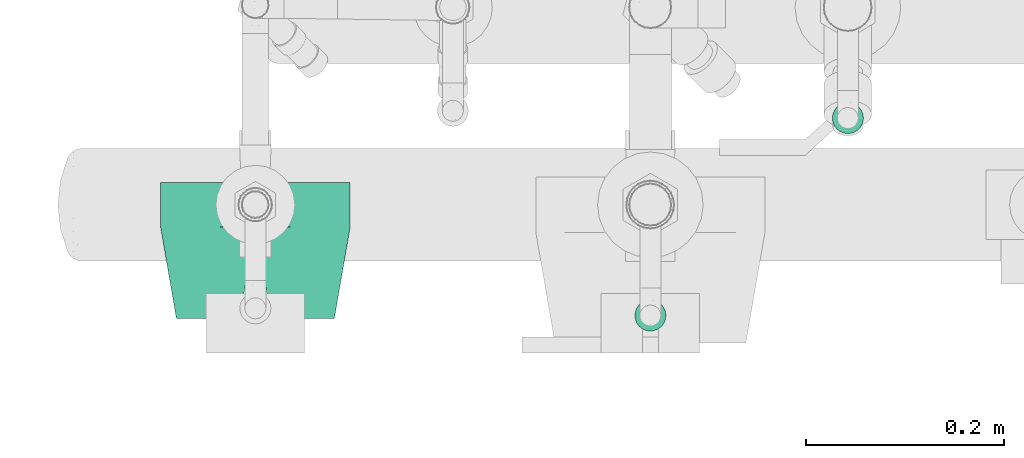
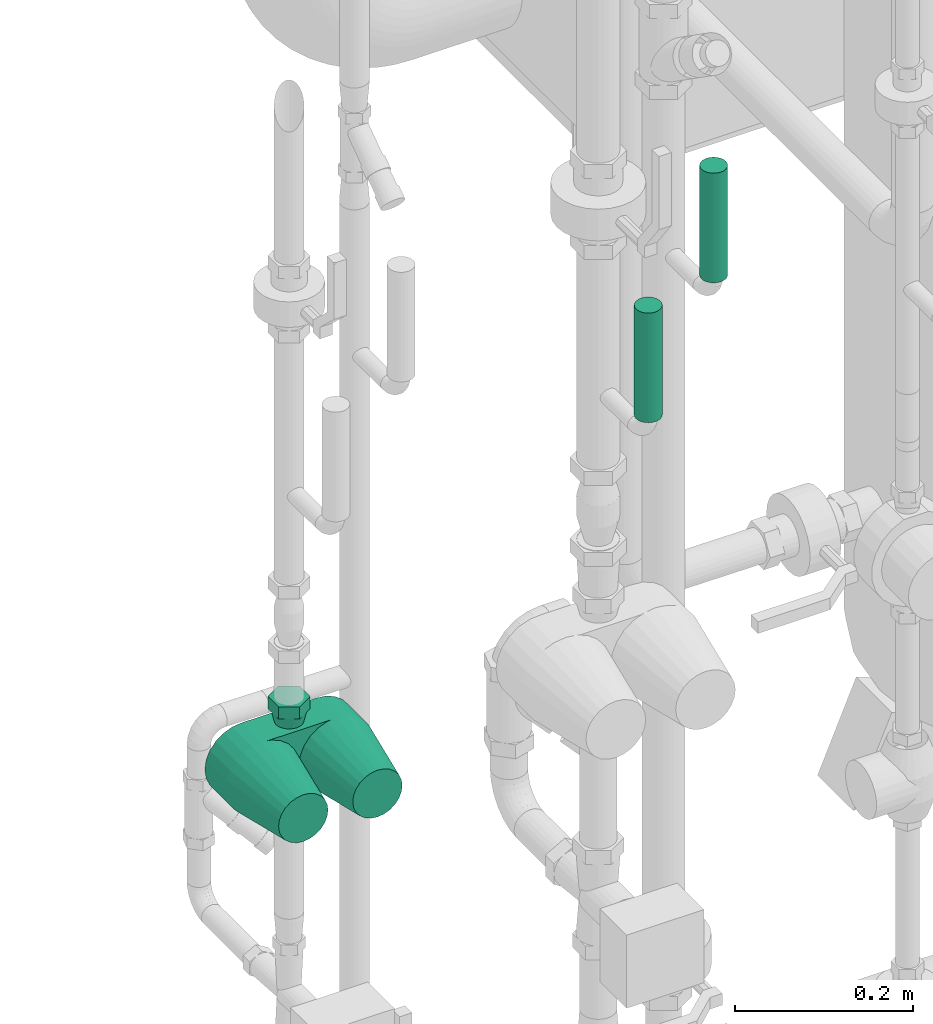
# One storey, part 81 of 374: 2 distribution control elements, 1 flow moving device.
"""IFC2X3 building model written with IfcOpenShell, lengths in metres."""

from ifc_helpers import new_model, si_unit, direction, origin, place, context, subcontext, project, spatial, open_shell, surface_model, source, transform, mapped, element, save


model = new_model("IFC2X3")

# Units and contexts
model_context = context("Model", 3, precision=1e-05, world=origin(), true_north=direction((-0.4480736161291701, 0.8939966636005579)))
body_context = subcontext(model_context, "Body", "Model", "MODEL_VIEW")
ifc_project = project(units=[si_unit("LENGTHUNIT", "METRE"), si_unit("AREAUNIT", "SQUARE_METRE"), si_unit("VOLUMEUNIT", "CUBIC_METRE"), si_unit("PLANEANGLEUNIT", "RADIAN"), si_unit("THERMODYNAMICTEMPERATUREUNIT", "KELVIN"), si_unit("MASSUNIT", "GRAM", prefix="KILO"), si_unit("TIMEUNIT", "SECOND")], contexts=[model_context])

# Site, building, storey
site_placement = place(None, origin())
site = spatial("IfcSite", under=ifc_project, at=site_placement, Name="Site 1", CompositionType="ELEMENT")
building_placement = place(site_placement, origin())
building = spatial("IfcBuilding", under=site, at=building_placement, Name="Undefined", CompositionType="ELEMENT")
storey_placement = place(building_placement, origin())
storey = spatial("IfcBuildingStorey", under=building, at=storey_placement, Name="Rez de chauss\x8ee", CompositionType="ELEMENT", Elevation=0.0)

# Distribution control elements
shared_shape_1 = source(origin(), body_context, "Body", "SurfaceModel", [
    surface_model("IfcFaceBasedSurfaceModel", [(0.0, 0.004111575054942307, -1.33226763e-15), (0.0, 0.0, 0.0), (0.1499999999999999, 7.105427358e-15, -4.4408921e-16), (0.1499999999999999, 0.004111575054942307, -1.33226763e-15), (0.0, -0.003971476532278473, -0.0010641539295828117), (0.1499999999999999, -0.003971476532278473, -0.0010641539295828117), (0.0, -0.007532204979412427, -0.003119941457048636), (0.1499999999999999, -0.007532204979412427, -0.003119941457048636), (0.0, -0.01043952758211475, -0.006027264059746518), (0.1499999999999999, -0.01043952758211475, -0.006027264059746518), (0.0, -0.01249531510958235, -0.009587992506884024), (0.1499999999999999, -0.01249531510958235, -0.009587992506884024), (0.0, -0.013559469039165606, -0.013559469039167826), (0.1499999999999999, -0.013559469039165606, -0.013559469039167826), (0.0, -0.013559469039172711, -0.017671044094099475), (0.1499999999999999, -0.013559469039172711, -0.017671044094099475), (0.0, -0.01249531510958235, -0.021642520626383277), (0.1499999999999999, -0.01249531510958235, -0.021642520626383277), (0.0, -0.010439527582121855, -0.025203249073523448), (0.1499999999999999, -0.010439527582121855, -0.025203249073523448), (0.0, -0.007532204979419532, -0.028110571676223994), (0.1499999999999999, -0.007532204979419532, -0.028110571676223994), (0.0, -0.003971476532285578, -0.030166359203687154), (0.1499999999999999, -0.003971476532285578, -0.030166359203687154), (0.0, 7.105427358e-15, -0.031230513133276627), (0.1499999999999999, 7.105427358e-15, -0.031230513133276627), (0.0, 0.004111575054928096, -0.031230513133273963), (0.1499999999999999, 0.004111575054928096, -0.031230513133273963), (0.0, 0.00808305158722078, -0.03016635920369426), (0.1499999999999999, 0.00808305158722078, -0.03016635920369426), (0.0, 0.011643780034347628, -0.028110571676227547), (0.1499999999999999, 0.011643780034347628, -0.028110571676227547), (0.0, 0.014551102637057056, -0.02520324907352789), (0.1499999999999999, 0.014551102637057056, -0.02520324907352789), (0.0, 0.01660689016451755, -0.02164252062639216), (0.1499999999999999, 0.01660689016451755, -0.02164252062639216), (0.0, 0.017671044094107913, -0.01767104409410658), (0.1499999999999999, 0.017671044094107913, -0.01767104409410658), (0.0, 0.017671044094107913, -0.013559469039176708), (0.1499999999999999, 0.017671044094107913, -0.013559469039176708), (0.0, 0.016606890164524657, -0.00958799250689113), (0.1499999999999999, 0.016606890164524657, -0.00958799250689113), (0.0, 0.014551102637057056, -0.006027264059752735), (0.1499999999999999, 0.014551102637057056, -0.006027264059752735), (0.0, 0.01164378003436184, -0.003119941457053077), (0.1499999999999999, 0.01164378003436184, -0.003119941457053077), (0.0, 0.00808305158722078, -0.0010641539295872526), (0.1499999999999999, 0.00808305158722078, -0.0010641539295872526), (0.0, 0.002055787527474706, -0.015615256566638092), (0.1499999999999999, 0.002055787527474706, -0.015615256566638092)], [open_shell([[[0, 1, 2, 3]], [[1, 4, 5, 2]], [[4, 6, 7, 5]], [[6, 8, 9, 7]], [[8, 10, 11, 9]], [[10, 12, 13, 11]], [[12, 14, 15, 13]], [[14, 16, 17, 15]], [[16, 18, 19, 17]], [[18, 20, 21, 19]], [[20, 22, 23, 21]], [[22, 24, 25, 23]], [[24, 26, 27, 25]], [[26, 28, 29, 27]], [[28, 30, 31, 29]], [[30, 32, 33, 31]], [[32, 34, 35, 33]], [[34, 36, 37, 35]], [[36, 38, 39, 37]], [[38, 40, 41, 39]], [[40, 42, 43, 41]], [[42, 44, 45, 43]], [[44, 46, 47, 45]], [[46, 0, 3, 47]], [[48, 1, 0]], [[48, 4, 1]], [[48, 6, 4]], [[48, 8, 6]], [[48, 10, 8]], [[48, 12, 10]], [[48, 14, 12]], [[48, 16, 14]], [[48, 18, 16]], [[48, 20, 18]], [[48, 22, 20]], [[48, 24, 22]], [[48, 26, 24]], [[48, 28, 26]], [[48, 30, 28]], [[48, 32, 30]], [[48, 34, 32]], [[48, 36, 34]], [[48, 38, 36]], [[48, 40, 38]], [[48, 42, 40]], [[48, 44, 42]], [[48, 46, 44]], [[48, 0, 46]], [[49, 47, 3]], [[49, 45, 47]], [[49, 43, 45]], [[49, 41, 43]], [[49, 39, 41]], [[49, 37, 39]], [[49, 35, 37]], [[49, 33, 35]], [[49, 31, 33]], [[49, 29, 31]], [[49, 27, 29]], [[49, 25, 27]], [[49, 23, 25]], [[49, 21, 23]], [[49, 19, 21]], [[49, 17, 19]], [[49, 15, 17]], [[49, 13, 15]], [[49, 11, 13]], [[49, 9, 11]], [[49, 7, 9]], [[49, 5, 7]], [[49, 2, 5]], [[49, 3, 2]]])]),
])
distribution_control_element_1_placement = place(storey_placement, origin())
element("IfcDistributionControlElement", 1, at=distribution_control_element_1_placement, inside=storey, Name="Thermomètre droit", ObjectType="Thermomètre droit", context=body_context, shape_type="MappedRepresentation", body=[
    mapped(shared_shape_1, transform((52.45348561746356, 10.621100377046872, 1.4932197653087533), x_axis=(0.0, 0.0, 1.0), y_axis=(0.9914448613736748, 0.13052619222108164, 0.0), z_axis=(-0.13052619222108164, 0.9914448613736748, 0.0))),
])
distribution_control_element_2_placement = place(storey_placement, origin())
element("IfcDistributionControlElement", 2, at=distribution_control_element_2_placement, inside=storey, Name="Thermomètre droit", ObjectType="Thermomètre droit", context=body_context, shape_type="MappedRepresentation", body=[
    mapped(shared_shape_1, transform((52.653485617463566, 10.821100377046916, 1.4932197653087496), x_axis=(0.0, 0.0, 1.0), y_axis=(0.9914448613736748, 0.13052619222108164, 0.0), z_axis=(-0.13052619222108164, 0.9914448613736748, 0.0))),
])

# Flow moving device
shared_shape_2 = source(origin(), body_context, "Body", "SurfaceModel", [
    surface_model("IfcFaceBasedSurfaceModel", [(0.0, 0.0, 0.0), (0.02367136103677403, 0.0, 0.0), (0.02367136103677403, 0.016799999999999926, 0.0), (0.0, 0.016799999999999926, 0.0), (-0.011835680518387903, 0.0, 0.02049999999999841), (-0.011835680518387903, 0.016799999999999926, 0.02049999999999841), (0.0, 0.0, 0.04100000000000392), (0.0, 0.016799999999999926, 0.04100000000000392), (0.02367136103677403, 0.0, 0.04100000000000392), (0.02367136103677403, 0.016799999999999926, 0.04100000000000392), (0.03550704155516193, 0.0, 0.02049999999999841), (0.03550704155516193, 0.016799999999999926, 0.02049999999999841), (-0.008664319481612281, 0.016799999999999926, 0.02049999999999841), (-0.007965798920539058, 0.016799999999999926, 0.025805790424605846), (-0.0044401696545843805, 0.03279999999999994, 0.0248611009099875), (-0.005014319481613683, 0.03279999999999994, 0.020500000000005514), (-0.005917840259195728, 0.016799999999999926, 0.030750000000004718), (-0.002756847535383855, 0.03279999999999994, 0.028925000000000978), (-0.0026600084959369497, 0.016799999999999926, 0.03499568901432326), (-7.906874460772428e-05, 0.03279999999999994, 0.032414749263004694), (0.0015856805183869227, 0.016799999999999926, 0.03825352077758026), (0.003410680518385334, 0.03279999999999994, 0.03509252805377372), (0.006529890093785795, 0.016799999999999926, 0.04030147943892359), (0.007474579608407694, 0.03279999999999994, 0.036775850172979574), (0.011835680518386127, 0.016799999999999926, 0.04100000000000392), (0.01183568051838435, 0.03279999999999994, 0.03735000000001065), (0.017141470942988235, 0.016799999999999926, 0.04030147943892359), (0.01619678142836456, 0.03279999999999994, 0.036775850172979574), (0.022085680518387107, 0.016799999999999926, 0.03825352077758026), (0.02026068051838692, 0.03279999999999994, 0.03509252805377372), (0.02633136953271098, 0.016799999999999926, 0.03499568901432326), (0.023750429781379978, 0.03279999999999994, 0.032414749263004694), (0.029589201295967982, 0.016799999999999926, 0.030750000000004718), (0.026428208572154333, 0.03279999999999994, 0.028925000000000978), (0.03163715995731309, 0.016799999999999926, 0.025805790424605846), (0.028111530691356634, 0.03279999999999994, 0.0248611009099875), (0.03233568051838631, 0.016799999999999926, 0.02049999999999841), (0.028685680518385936, 0.03279999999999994, 0.020500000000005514), (0.03163715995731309, 0.016799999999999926, 0.015194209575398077), (0.028111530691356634, 0.03279999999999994, 0.016138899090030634), (0.029589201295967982, 0.016799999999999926, 0.010249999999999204), (0.026428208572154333, 0.03279999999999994, 0.012075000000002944), (0.02633136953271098, 0.016799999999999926, 0.006004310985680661), (0.023750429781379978, 0.03279999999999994, 0.008585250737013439), (0.022085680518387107, 0.016799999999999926, 0.002746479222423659), (0.02026068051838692, 0.03279999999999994, 0.005907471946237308), (0.017141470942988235, 0.016799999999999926, 0.0006985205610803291), (0.01619678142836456, 0.03279999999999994, 0.004224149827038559), (0.011835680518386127, 0.016799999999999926, 0.0), (0.01183568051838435, 0.03279999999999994, 0.0036500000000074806), (0.006529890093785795, 0.016799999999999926, 0.0006985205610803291), (0.007474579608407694, 0.03279999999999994, 0.004224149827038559), (0.0015856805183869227, 0.016799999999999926, 0.002746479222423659), (0.003410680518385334, 0.03279999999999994, 0.005907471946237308), (-0.0026600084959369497, 0.016799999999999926, 0.006004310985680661), (-7.906874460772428e-05, 0.03279999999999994, 0.008585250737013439), (-0.005917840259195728, 0.016799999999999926, 0.010249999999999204), (-0.002756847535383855, 0.03279999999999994, 0.012075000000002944), (-0.007965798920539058, 0.016799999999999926, 0.015194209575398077), (-0.0044401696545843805, 0.03279999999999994, 0.016138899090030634), (-0.005014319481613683, 0.12719999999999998, 0.02049999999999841), (-0.0044401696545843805, 0.12719999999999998, 0.024861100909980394), (-0.007965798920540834, 0.1432, 0.02580579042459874), (-0.008664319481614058, 0.1432, 0.020499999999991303), (-0.0027568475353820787, 0.12719999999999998, 0.028925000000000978), (-0.005917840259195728, 0.1432, 0.030750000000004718), (-7.906874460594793e-05, 0.12719999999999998, 0.03241474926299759), (-0.0026600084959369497, 0.1432, 0.034995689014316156), (0.0034106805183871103, 0.12719999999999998, 0.03509252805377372), (0.0015856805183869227, 0.1432, 0.03825352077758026), (0.007474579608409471, 0.12719999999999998, 0.03677585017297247), (0.006529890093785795, 0.1432, 0.04030147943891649), (0.011835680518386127, 0.12719999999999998, 0.03734999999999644), (0.011835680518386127, 0.1432, 0.04099999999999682), (0.01619678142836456, 0.12719999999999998, 0.03677585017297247), (0.01714147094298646, 0.1432, 0.04030147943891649), (0.02026068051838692, 0.12719999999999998, 0.03509252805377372), (0.02208568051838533, 0.1432, 0.03825352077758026), (0.023750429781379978, 0.12719999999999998, 0.03241474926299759), (0.026331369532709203, 0.1432, 0.034995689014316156), (0.02642820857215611, 0.12719999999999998, 0.028925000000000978), (0.029589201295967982, 0.1432, 0.030750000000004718), (0.02811153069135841, 0.12719999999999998, 0.024861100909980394), (0.03163715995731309, 0.1432, 0.02580579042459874), (0.028685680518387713, 0.12719999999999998, 0.02049999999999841), (0.03233568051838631, 0.1432, 0.020499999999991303), (0.02811153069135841, 0.12719999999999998, 0.01613889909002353), (0.03163715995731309, 0.1432, 0.015194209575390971), (0.02642820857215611, 0.12719999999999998, 0.012074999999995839), (0.029589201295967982, 0.1432, 0.010249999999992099), (0.023750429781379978, 0.12719999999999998, 0.008585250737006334), (0.026331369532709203, 0.1432, 0.0060043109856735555), (0.02026068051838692, 0.12719999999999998, 0.005907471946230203), (0.02208568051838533, 0.1432, 0.0027464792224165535), (0.01619678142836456, 0.12719999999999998, 0.004224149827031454), (0.01714147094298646, 0.1432, 0.0006985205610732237), (0.011835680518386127, 0.12719999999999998, 0.003650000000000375), (0.011835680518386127, 0.1432, -7.105427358e-15), (0.007474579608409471, 0.12719999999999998, 0.004224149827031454), (0.006529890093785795, 0.1432, 0.0006985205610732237), (0.0034106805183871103, 0.12719999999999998, 0.005907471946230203), (0.0015856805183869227, 0.1432, 0.0027464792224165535), (-7.906874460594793e-05, 0.12719999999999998, 0.008585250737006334), (-0.0026600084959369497, 0.1432, 0.0060043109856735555), (-0.0027568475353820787, 0.12719999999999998, 0.012074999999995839), (-0.005917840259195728, 0.1432, 0.010249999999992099), (-0.0044401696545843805, 0.12719999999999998, 0.01613889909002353), (-0.007965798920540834, 0.1432, 0.015194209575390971), (0.0, 0.1432, 0.0), (0.02367136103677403, 0.1432, 0.0), (0.02367136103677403, 0.15999999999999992, 0.0), (0.0, 0.15999999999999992, 0.0), (-0.011835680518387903, 0.1432, 0.02049999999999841), (-0.011835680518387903, 0.15999999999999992, 0.02049999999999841), (0.0, 0.1432, 0.04100000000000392), (0.0, 0.15999999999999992, 0.04100000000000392), (0.02367136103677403, 0.1432, 0.04100000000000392), (0.02367136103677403, 0.15999999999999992, 0.04100000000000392), (0.03550704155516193, 0.1432, 0.02049999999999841), (0.03550704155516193, 0.15999999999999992, 0.02049999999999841), (0.03433568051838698, 0.03279999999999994, 0.06850000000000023), (0.03433568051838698, 0.03279999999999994, -0.027499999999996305), (-0.01066431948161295, 0.03279999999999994, -0.027499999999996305), (-0.01066431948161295, 0.03279999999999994, 0.06850000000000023), (0.03433568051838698, 0.12719999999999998, -0.027499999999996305), (0.03433568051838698, 0.12576477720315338, -0.03987152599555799), (-0.01066431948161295, 0.12576477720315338, -0.03987152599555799), (-0.01066431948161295, 0.12719999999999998, -0.027499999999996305), (0.03433568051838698, 0.12114405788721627, -0.0514371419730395), (-0.01066431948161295, 0.12114405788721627, -0.0514371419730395), (0.03433568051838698, 0.11365947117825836, -0.06139181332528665), (-0.01066431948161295, 0.11365947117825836, -0.06139181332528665), (0.03433568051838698, 0.10383198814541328, -0.06904263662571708), (-0.01066431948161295, 0.10383198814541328, -0.06904263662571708), (0.03433568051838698, 0.09234565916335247, -0.0738570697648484), (-0.01066431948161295, 0.09234565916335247, -0.0738570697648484), (0.03433568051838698, 0.08000000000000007, -0.07549999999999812), (-0.01066431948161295, 0.08000000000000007, -0.07549999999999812), (0.03433568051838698, 0.0676543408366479, -0.0738570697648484), (-0.01066431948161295, 0.0676543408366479, -0.0738570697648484), (0.03433568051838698, 0.05616801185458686, -0.06904263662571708), (-0.01066431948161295, 0.05616801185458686, -0.06904263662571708), (0.03433568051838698, 0.04634052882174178, -0.06139181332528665), (-0.01066431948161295, 0.04634052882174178, -0.06139181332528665), (0.03433568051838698, 0.03885594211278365, -0.0514371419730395), (-0.01066431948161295, 0.03885594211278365, -0.0514371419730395), (0.03433568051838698, 0.03423522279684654, -0.03987152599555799), (-0.01066431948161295, 0.03423522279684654, -0.03987152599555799), (0.03433568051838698, 0.12719999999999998, 0.06850000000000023), (-0.01066431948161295, 0.12719999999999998, 0.06850000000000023), (0.03433568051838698, 0.03423522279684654, 0.08087152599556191), (-0.01066431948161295, 0.03423522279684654, 0.08087152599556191), (0.03433568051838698, 0.03885594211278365, 0.09243714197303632), (-0.01066431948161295, 0.03885594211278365, 0.09243714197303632), (0.03433568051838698, 0.046340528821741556, 0.10239181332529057), (-0.01066431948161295, 0.046340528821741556, 0.10239181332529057), (0.03433568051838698, 0.05616801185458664, 0.110042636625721), (-0.01066431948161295, 0.05616801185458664, 0.110042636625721), (0.03433568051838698, 0.0676543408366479, 0.11485706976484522), (-0.01066431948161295, 0.0676543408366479, 0.11485706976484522), (0.03433568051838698, 0.08000000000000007, 0.11650000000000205), (-0.01066431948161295, 0.08000000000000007, 0.11650000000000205), (0.03433568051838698, 0.09234565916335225, 0.11485706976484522), (-0.01066431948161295, 0.09234565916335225, 0.11485706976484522), (0.03433568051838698, 0.10383198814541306, 0.110042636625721), (-0.01066431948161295, 0.10383198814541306, 0.110042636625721), (0.03433568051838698, 0.11365947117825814, 0.10239181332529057), (-0.01066431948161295, 0.11365947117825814, 0.10239181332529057), (0.03433568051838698, 0.12114405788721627, 0.09243714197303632), (-0.01066431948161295, 0.12114405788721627, 0.09243714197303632), (0.03433568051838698, 0.12576477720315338, 0.08087152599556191), (-0.01066431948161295, 0.12576477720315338, 0.08087152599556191), (0.03433568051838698, 0.1280000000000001, 0.06850000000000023), (0.03433568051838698, 0.12636443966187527, 0.08092331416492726), (0.12683568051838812, 0.11090962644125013, 0.07678220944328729), (0.12683568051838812, 0.1120000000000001, 0.06850000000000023), (0.03433568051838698, 0.1215692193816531, 0.09250000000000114), (0.12683568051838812, 0.10771281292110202, 0.08449999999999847), (0.03433568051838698, 0.11394112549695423, 0.10244112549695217), (0.12683568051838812, 0.10262741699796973, 0.09112741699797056), (0.03433568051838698, 0.10400000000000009, 0.11006921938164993), (0.12683568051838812, 0.09600000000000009, 0.0962128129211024), (0.03433568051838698, 0.09242331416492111, 0.1148644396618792), (0.12683568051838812, 0.08828220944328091, 0.09940962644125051), (0.12683568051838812, 0.08000000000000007, 0.10050000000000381), (0.03433568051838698, 0.06757668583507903, 0.1148644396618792), (0.12683568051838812, 0.07171779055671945, 0.09940962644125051), (0.03433568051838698, 0.05600000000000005, 0.11006921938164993), (0.12683568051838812, 0.06400000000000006, 0.0962128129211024), (0.03433568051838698, 0.04605887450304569, 0.10244112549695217), (0.12683568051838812, 0.05737258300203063, 0.09112741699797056), (0.03433568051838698, 0.03843078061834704, 0.09250000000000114), (0.12683568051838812, 0.05228718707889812, 0.08449999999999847), (0.03433568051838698, 0.03363556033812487, 0.08092331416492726), (0.12683568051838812, 0.04909037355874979, 0.07678220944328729), (0.03433568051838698, 0.03200000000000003, 0.06850000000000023), (0.12683568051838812, 0.04800000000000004, 0.06850000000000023), (0.03433568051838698, 0.03363556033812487, 0.0560766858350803), (0.12683568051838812, 0.04909037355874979, 0.06021779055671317), (0.03433568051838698, 0.03843078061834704, 0.04449999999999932), (0.12683568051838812, 0.05228718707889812, 0.05250000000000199), (0.03433568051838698, 0.04605887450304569, 0.03455887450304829), (0.12683568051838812, 0.05737258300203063, 0.045872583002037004), (0.03433568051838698, 0.05600000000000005, 0.026930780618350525), (0.12683568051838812, 0.06400000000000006, 0.04078718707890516), (0.03433568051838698, 0.06757668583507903, 0.022135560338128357), (0.12683568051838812, 0.07171779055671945, 0.037590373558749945), (0.03433568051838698, 0.08000000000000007, 0.02049999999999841), (0.12683568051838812, 0.08000000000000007, 0.03650000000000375), (0.03433568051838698, 0.09242331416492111, 0.022135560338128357), (0.12683568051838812, 0.08828220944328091, 0.037590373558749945), (0.03433568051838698, 0.10400000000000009, 0.026930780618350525), (0.12683568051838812, 0.09600000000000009, 0.04078718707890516), (0.03433568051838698, 0.11394112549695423, 0.03455887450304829), (0.12683568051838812, 0.10262741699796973, 0.045872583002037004), (0.03433568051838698, 0.1215692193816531, 0.04449999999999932), (0.12683568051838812, 0.10771281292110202, 0.05250000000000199), (0.03433568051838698, 0.12636443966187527, 0.0560766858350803), (0.12683568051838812, 0.11090962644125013, 0.06021779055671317), (0.12683568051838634, 0.08000000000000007, 0.06850000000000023), (0.03433568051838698, 0.1280000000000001, -0.027499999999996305), (0.03433568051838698, 0.12636443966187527, -0.015076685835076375), (0.12683568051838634, 0.11090962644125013, -0.019217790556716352), (0.12683568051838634, 0.1120000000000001, -0.027499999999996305), (0.03433568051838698, 0.1215692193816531, -0.0034999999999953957), (0.12683568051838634, 0.10771281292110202, -0.011499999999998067), (0.03433568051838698, 0.11394112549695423, 0.006441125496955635), (0.12683568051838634, 0.10262741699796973, -0.004872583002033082), (0.03433568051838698, 0.10400000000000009, 0.014069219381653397), (0.12683568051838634, 0.09600000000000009, 0.0002128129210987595), (0.03433568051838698, 0.09242331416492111, 0.018864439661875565), (0.12683568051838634, 0.08828220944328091, 0.0034096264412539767), (0.12683568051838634, 0.08000000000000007, 0.0045000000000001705), (0.03433568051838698, 0.06757668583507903, 0.018864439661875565), (0.12683568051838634, 0.07171779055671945, 0.0034096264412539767), (0.03433568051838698, 0.05600000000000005, 0.014069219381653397), (0.12683568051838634, 0.06400000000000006, 0.0002128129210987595), (0.03433568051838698, 0.04605887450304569, 0.006441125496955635), (0.12683568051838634, 0.05737258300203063, -0.004872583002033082), (0.03433568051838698, 0.03843078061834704, -0.0034999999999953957), (0.12683568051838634, 0.05228718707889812, -0.011499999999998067), (0.03433568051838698, 0.03363556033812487, -0.015076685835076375), (0.12683568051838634, 0.04909037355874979, -0.019217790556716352), (0.03433568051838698, 0.03200000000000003, -0.027499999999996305), (0.12683568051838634, 0.04800000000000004, -0.027499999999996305), (0.03433568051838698, 0.03363556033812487, -0.03992331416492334), (0.12683568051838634, 0.04909037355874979, -0.035782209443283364), (0.03433568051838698, 0.03843078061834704, -0.051499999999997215), (0.12683568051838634, 0.05228718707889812, -0.04350000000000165), (0.03433568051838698, 0.04605887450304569, -0.061441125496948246), (0.12683568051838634, 0.05737258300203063, -0.050127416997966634), (0.03433568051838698, 0.05600000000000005, -0.06906921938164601), (0.12683568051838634, 0.06400000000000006, -0.055212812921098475), (0.03433568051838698, 0.06757668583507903, -0.07386443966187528), (0.12683568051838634, 0.07171779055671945, -0.05840962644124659), (0.12683568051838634, 0.08000000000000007, -0.059499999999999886), (0.03433568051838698, 0.09242331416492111, -0.07386443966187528), (0.12683568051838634, 0.08828220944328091, -0.05840962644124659), (0.03433568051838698, 0.10400000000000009, -0.06906921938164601), (0.12683568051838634, 0.09600000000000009, -0.055212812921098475), (0.03433568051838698, 0.11394112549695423, -0.061441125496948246), (0.12683568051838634, 0.10262741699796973, -0.050127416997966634), (0.03433568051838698, 0.1215692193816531, -0.051499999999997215), (0.12683568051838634, 0.10771281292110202, -0.04350000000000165), (0.03433568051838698, 0.12636443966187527, -0.03992331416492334), (0.12683568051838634, 0.11090962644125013, -0.035782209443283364), (0.12683568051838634, 0.08000000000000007, -0.027499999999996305)], [open_shell([[[0, 1, 2, 3]], [[4, 0, 3, 5]], [[6, 4, 5, 7]], [[8, 6, 7, 9]], [[10, 8, 9, 11]], [[1, 10, 11, 2]], [[1, 0, 4]], [[1, 4, 6]], [[1, 6, 8]], [[1, 8, 10]], [[2, 5, 3]], [[2, 7, 5]], [[2, 9, 7]], [[2, 11, 9]], [[12, 13, 14, 15]], [[13, 16, 17, 14]], [[16, 18, 19, 17]], [[18, 20, 21, 19]], [[20, 22, 23, 21]], [[22, 24, 25, 23]], [[24, 26, 27, 25]], [[26, 28, 29, 27]], [[28, 30, 31, 29]], [[30, 32, 33, 31]], [[32, 34, 35, 33]], [[34, 36, 37, 35]], [[36, 38, 39, 37]], [[38, 40, 41, 39]], [[40, 42, 43, 41]], [[42, 44, 45, 43]], [[44, 46, 47, 45]], [[46, 48, 49, 47]], [[48, 50, 51, 49]], [[50, 52, 53, 51]], [[52, 54, 55, 53]], [[54, 56, 57, 55]], [[56, 58, 59, 57]], [[58, 12, 15, 59]], [[60, 61, 62, 63]], [[61, 64, 65, 62]], [[64, 66, 67, 65]], [[66, 68, 69, 67]], [[68, 70, 71, 69]], [[70, 72, 73, 71]], [[72, 74, 75, 73]], [[74, 76, 77, 75]], [[76, 78, 79, 77]], [[78, 80, 81, 79]], [[80, 82, 83, 81]], [[82, 84, 85, 83]], [[84, 86, 87, 85]], [[86, 88, 89, 87]], [[88, 90, 91, 89]], [[90, 92, 93, 91]], [[92, 94, 95, 93]], [[94, 96, 97, 95]], [[96, 98, 99, 97]], [[98, 100, 101, 99]], [[100, 102, 103, 101]], [[102, 104, 105, 103]], [[104, 106, 107, 105]], [[106, 60, 63, 107]], [[108, 109, 110, 111]], [[112, 108, 111, 113]], [[114, 112, 113, 115]], [[116, 114, 115, 117]], [[118, 116, 117, 119]], [[109, 118, 119, 110]], [[109, 108, 112]], [[109, 112, 114]], [[109, 114, 116]], [[109, 116, 118]], [[110, 113, 111]], [[110, 115, 113]], [[110, 117, 115]], [[110, 119, 117]], [[120, 121, 122, 123]], [[124, 125, 126, 127]], [[125, 128, 129, 126]], [[128, 130, 131, 129]], [[130, 132, 133, 131]], [[132, 134, 135, 133]], [[134, 136, 137, 135]], [[136, 138, 139, 137]], [[138, 140, 141, 139]], [[140, 142, 143, 141]], [[142, 144, 145, 143]], [[144, 146, 147, 145]], [[146, 121, 122, 147]], [[124, 148, 149, 127]], [[120, 150, 151, 123]], [[150, 152, 153, 151]], [[152, 154, 155, 153]], [[154, 156, 157, 155]], [[156, 158, 159, 157]], [[158, 160, 161, 159]], [[160, 162, 163, 161]], [[162, 164, 165, 163]], [[164, 166, 167, 165]], [[166, 168, 169, 167]], [[168, 170, 171, 169]], [[170, 148, 149, 171]], [[147, 122, 123]], [[145, 147, 123]], [[143, 145, 123]], [[141, 143, 123]], [[139, 141, 123]], [[137, 139, 123]], [[135, 137, 123]], [[133, 135, 123]], [[131, 133, 123]], [[129, 131, 123]], [[126, 129, 123]], [[127, 126, 123]], [[149, 127, 123]], [[171, 149, 123]], [[169, 171, 123]], [[167, 169, 123]], [[165, 167, 123]], [[163, 165, 123]], [[161, 163, 123]], [[159, 161, 123]], [[157, 159, 123]], [[155, 157, 123]], [[153, 155, 123]], [[151, 153, 123]], [[120, 121, 146]], [[120, 146, 144]], [[120, 144, 142]], [[120, 142, 140]], [[120, 140, 138]], [[120, 138, 136]], [[120, 136, 134]], [[120, 134, 132]], [[120, 132, 130]], [[120, 130, 128]], [[120, 128, 125]], [[120, 125, 124]], [[120, 124, 148]], [[120, 148, 170]], [[120, 170, 168]], [[120, 168, 166]], [[120, 166, 164]], [[120, 164, 162]], [[120, 162, 160]], [[120, 160, 158]], [[120, 158, 156]], [[120, 156, 154]], [[120, 154, 152]], [[120, 152, 150]], [[172, 173, 174, 175]], [[173, 176, 177, 174]], [[176, 178, 179, 177]], [[178, 180, 181, 179]], [[180, 182, 183, 181]], [[182, 160, 184, 183]], [[160, 185, 186, 184]], [[185, 187, 188, 186]], [[187, 189, 190, 188]], [[189, 191, 192, 190]], [[191, 193, 194, 192]], [[193, 195, 196, 194]], [[195, 197, 198, 196]], [[197, 199, 200, 198]], [[199, 201, 202, 200]], [[201, 203, 204, 202]], [[203, 205, 206, 204]], [[205, 207, 208, 206]], [[207, 209, 210, 208]], [[209, 211, 212, 210]], [[211, 213, 214, 212]], [[213, 215, 216, 214]], [[215, 217, 218, 216]], [[217, 172, 175, 218]], [[219, 218, 175]], [[219, 216, 218]], [[219, 214, 216]], [[219, 212, 214]], [[219, 210, 212]], [[219, 208, 210]], [[219, 206, 208]], [[219, 204, 206]], [[219, 202, 204]], [[219, 200, 202]], [[219, 198, 200]], [[219, 196, 198]], [[219, 194, 196]], [[219, 192, 194]], [[219, 190, 192]], [[219, 188, 190]], [[219, 186, 188]], [[219, 184, 186]], [[219, 183, 184]], [[219, 181, 183]], [[219, 179, 181]], [[219, 177, 179]], [[219, 174, 177]], [[219, 175, 174]], [[220, 221, 222, 223]], [[221, 224, 225, 222]], [[224, 226, 227, 225]], [[226, 228, 229, 227]], [[228, 230, 231, 229]], [[230, 207, 232, 231]], [[207, 233, 234, 232]], [[233, 235, 236, 234]], [[235, 237, 238, 236]], [[237, 239, 240, 238]], [[239, 241, 242, 240]], [[241, 243, 244, 242]], [[243, 245, 246, 244]], [[245, 247, 248, 246]], [[247, 249, 250, 248]], [[249, 251, 252, 250]], [[251, 253, 254, 252]], [[253, 136, 255, 254]], [[136, 256, 257, 255]], [[256, 258, 259, 257]], [[258, 260, 261, 259]], [[260, 262, 263, 261]], [[262, 264, 265, 263]], [[264, 220, 223, 265]], [[266, 265, 223]], [[266, 263, 265]], [[266, 261, 263]], [[266, 259, 261]], [[266, 257, 259]], [[266, 255, 257]], [[266, 254, 255]], [[266, 252, 254]], [[266, 250, 252]], [[266, 248, 250]], [[266, 246, 248]], [[266, 244, 246]], [[266, 242, 244]], [[266, 240, 242]], [[266, 238, 240]], [[266, 236, 238]], [[266, 234, 236]], [[266, 232, 234]], [[266, 231, 232]], [[266, 229, 231]], [[266, 227, 229]], [[266, 225, 227]], [[266, 222, 225]], [[266, 223, 222]]])]),
])
flow_moving_device_placement = place(storey_placement, origin())
element("IfcFlowMovingDevice", 3, at=flow_moving_device_placement, inside=storey, Name="Pompe double", ObjectType="Pompe double", context=body_context, shape_type="MappedRepresentation", body=[
    mapped(shared_shape_2, transform((52.07806201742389, 10.729872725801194, 1.02), x_axis=(0.0, -1.0, 0.0), y_axis=(0.0, 0.0, 1.0), z_axis=(-1.0, 0.0, 0.0))),
])

save(model, "model.ifc")
